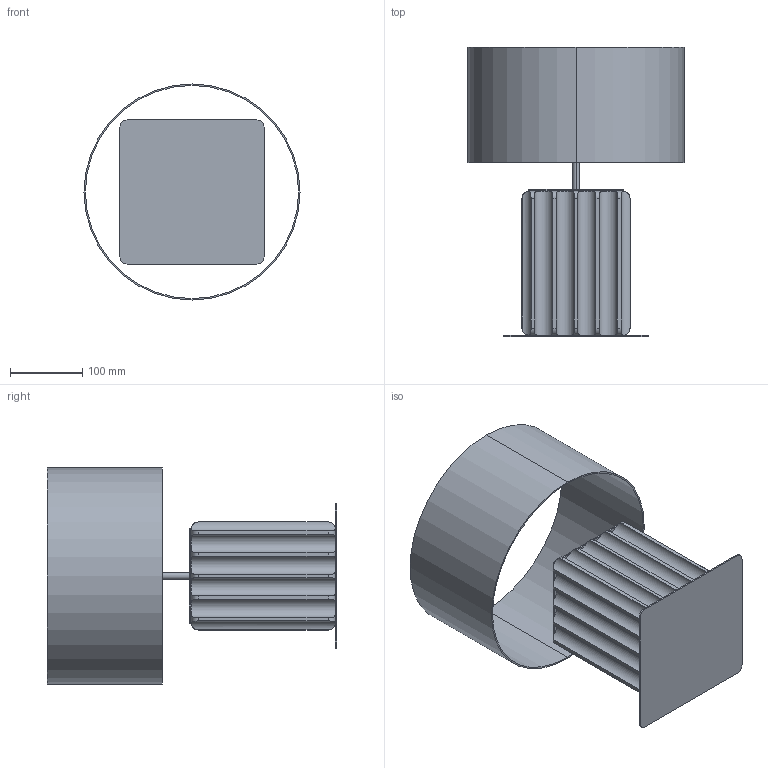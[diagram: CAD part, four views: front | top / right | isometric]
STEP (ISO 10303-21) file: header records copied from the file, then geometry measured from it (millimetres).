
FILE_DESCRIPTION (( 'STEP AP214' ), '1' );
FILE_NAME ('PIRE_NAC140_1.STEP', '2025-03-06T08:23:49', ( '' ), ( '' ), 'SwSTEP 2.0', 'SolidWorks 2018', '' );
FILE_SCHEMA (( 'AUTOMOTIVE_DESIGN' ));
Length unit declared in the file: millimetre
Products named in the file (1): PIRE_NAC140_1
Bounding box: 300 x 402 x 300 mm (x, y, z)
Volume: 3497919.2 mm3; surface area: 706492 mm2
Topology: 8 solids, 8 shells, 141 faces, 364 edges, 242 vertices
Faces by surface type: cylinder 90, plane 47, torus 4
Entity records: 7856 total; most frequent: CARTESIAN_POINT 2820, ORIENTED_EDGE 728, DIRECTION 662, EDGE_CURVE 364, AXIS2_PLACEMENT_3D 244, VERTEX_POINT 242, VECTOR 174, LINE 174
